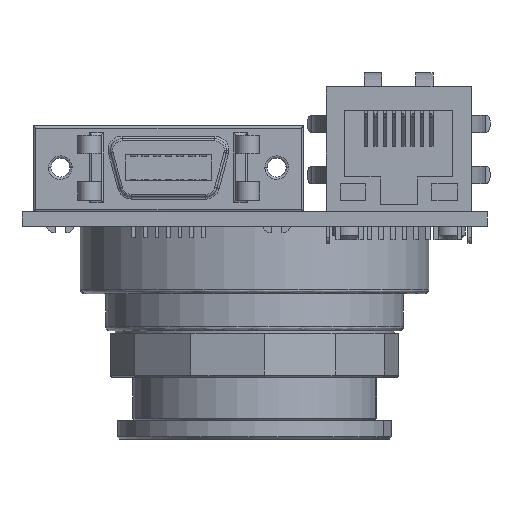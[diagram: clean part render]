
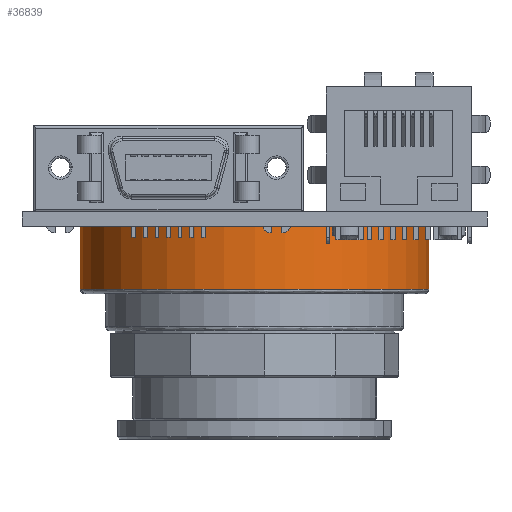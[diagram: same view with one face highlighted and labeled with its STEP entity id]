
A CAD part, front view. The second image highlights one B-rep face of the part: STEP entity #36839.
In plain terms, the highlighted cylindrical face has radius 19.05 mm (diameter 38.1 mm), a partial arc.
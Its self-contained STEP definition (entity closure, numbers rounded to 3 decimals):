
#224 = CYLINDRICAL_SURFACE ( 'NONE', #52886, 19.05 ) ;
#675 = CARTESIAN_POINT ( 'NONE',  ( 19.05, 0., 6.858 ) ) ;
#3052 = DIRECTION ( 'NONE',  ( 0., 0., -1. ) ) ;
#4151 = CARTESIAN_POINT ( 'NONE',  ( -19.05, 0., 0. ) ) ;
#4453 = VERTEX_POINT ( 'NONE', #4151 ) ;
#4588 = LINE ( 'NONE', #40494, #54288 ) ;
#7607 = VECTOR ( 'NONE', #3052, 1000. ) ;
#10860 = CARTESIAN_POINT ( 'NONE',  ( 0., 0., 0. ) ) ;
#12891 = CARTESIAN_POINT ( 'NONE',  ( 0., 0., 6.858 ) ) ;
#14996 = VERTEX_POINT ( 'NONE', #15043 ) ;
#15043 = CARTESIAN_POINT ( 'NONE',  ( 19.05, 0., 0. ) ) ;
#15791 = DIRECTION ( 'NONE',  ( -1., 0., 0. ) ) ;
#16562 = DIRECTION ( 'NONE',  ( 0., 0., -1. ) ) ;
#17785 = DIRECTION ( 'NONE',  ( -1., 0., 0. ) ) ;
#17843 = FACE_OUTER_BOUND ( 'NONE', #25341, .T. ) ;
#18644 = CARTESIAN_POINT ( 'NONE',  ( 0., 0., 11.43 ) ) ;
#19066 = CIRCLE ( 'NONE', #29816, 19.05 ) ;
#19522 = ORIENTED_EDGE ( 'NONE', *, *, #45511, .T. ) ;
#20896 = ORIENTED_EDGE ( 'NONE', *, *, #47416, .T. ) ;
#22883 = CIRCLE ( 'NONE', #55025, 19.05 ) ;
#22977 = VERTEX_POINT ( 'NONE', #29530 ) ;
#25341 = EDGE_LOOP ( 'NONE', ( #31816, #19522, #47134, #20896 ) ) ;
#28446 = DIRECTION ( 'NONE',  ( 0., 0., -1. ) ) ;
#29530 = CARTESIAN_POINT ( 'NONE',  ( -19.05, 0., 6.858 ) ) ;
#29816 = AXIS2_PLACEMENT_3D ( 'NONE', #10860, #44671, #15791 ) ;
#31714 = VERTEX_POINT ( 'NONE', #675 ) ;
#31816 = ORIENTED_EDGE ( 'NONE', *, *, #38125, .F. ) ;
#36839 = ADVANCED_FACE ( 'NONE', ( #17843 ), #224, .T. ) ;
#37105 = CARTESIAN_POINT ( 'NONE',  ( -19.05, 0., 11.43 ) ) ;
#38125 = EDGE_CURVE ( 'NONE', #31714, #14996, #4588, .T. ) ;
#40494 = CARTESIAN_POINT ( 'NONE',  ( 19.05, 0., 11.43 ) ) ;
#44671 = DIRECTION ( 'NONE',  ( 0., 0., 1. ) ) ;
#45511 = EDGE_CURVE ( 'NONE', #31714, #22977, #22883, .T. ) ;
#46614 = DIRECTION ( 'NONE',  ( 0., 0., -1. ) ) ;
#47134 = ORIENTED_EDGE ( 'NONE', *, *, #58398, .T. ) ;
#47416 = EDGE_CURVE ( 'NONE', #4453, #14996, #19066, .T. ) ;
#52343 = DIRECTION ( 'NONE',  ( -1., 0., 0. ) ) ;
#52886 = AXIS2_PLACEMENT_3D ( 'NONE', #18644, #28446, #52343 ) ;
#54288 = VECTOR ( 'NONE', #16562, 1000. ) ;
#55025 = AXIS2_PLACEMENT_3D ( 'NONE', #12891, #46614, #17785 ) ;
#57109 = LINE ( 'NONE', #37105, #7607 ) ;
#58398 = EDGE_CURVE ( 'NONE', #22977, #4453, #57109, .T. ) ;
